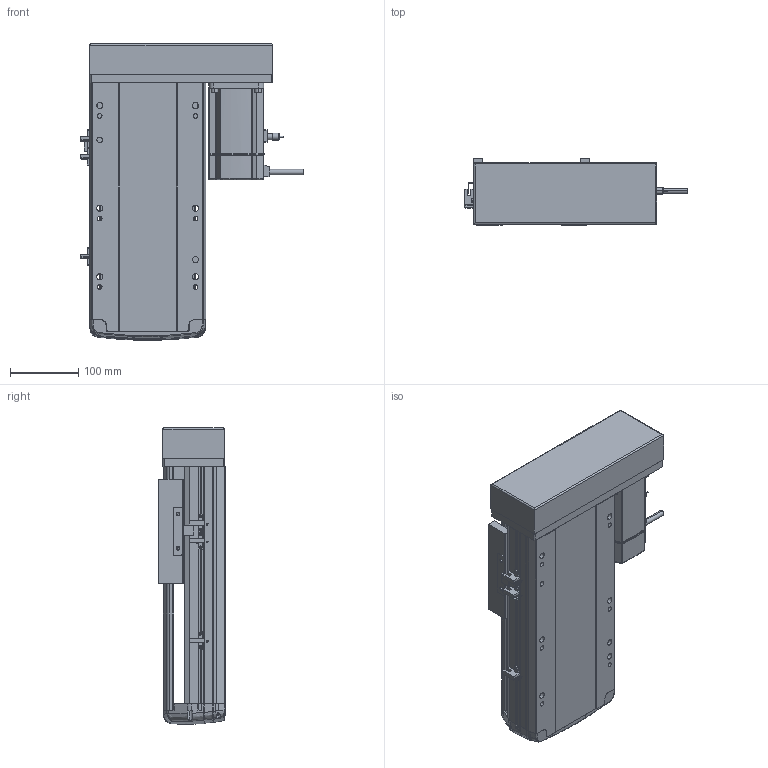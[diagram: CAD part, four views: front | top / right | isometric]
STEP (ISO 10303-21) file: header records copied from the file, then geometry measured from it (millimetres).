
FILE_DESCRIPTION (( 'STEP AP214' ), '1' );
FILE_NAME ('RTH17-XX-150-L-M75-C4.STEP', '2025-10-24T10:30:24', ( '' ), ( '' ), 'SwSTEP 2.0', 'SolidWorks 2018', '' );
FILE_SCHEMA (( 'AUTOMOTIVE_DESIGN' ));
Length unit declared in the file: millimetre
Products named in the file (10): N_OMRON EE-SX672 換覜ん^RTH17-XX-XX-L-M75-C4ㄗ源最宒ㄘ; N_M75^RTH17-XX-XX-L-M75-C4（方程式）; N_RTH17-GY-001P^RTH17-XX-XX-L-M75-C4（方程式）; N_RTH17-M-007上盖^RTH17-XX-XX-L-M75-C4（方程式）; N_RTH17-E-004丝杆螺母连接座^RTH17-XX-XX-L-M75-C4（方程式）; N_RTH17-L-008-P75电机安装板左转折^RTH17-XX-XX-L-M75-C4（方程式）; N_RTH17-L-018盖子^RTH17-XX-XX-L-M75-C4（方程式）; N_RTH-L-012 感应片(外置)^RTH17-XX-XX-L-M75-C4（方程式）; N_RTH17-M-011底座^RTH17-XX-XX-L-M75-C4（方程式）; RTH17-XX-150-L-M75-C4
Assembly tree (11 placements, depth 2):
  RTH17-XX-150-L-M75-C4
    N_RTH17-M-011底座^RTH17-XX-XX-L-M75-C4（方程式）
    N_RTH17-M-007上盖^RTH17-XX-XX-L-M75-C4（方程式）
    N_M75^RTH17-XX-XX-L-M75-C4（方程式）
    N_OMRON EE-SX672 換覜ん^RTH17-XX-XX-L-M75-C4ㄗ源最宒ㄘ  x3
    N_RTH-L-012 感应片(外置)^RTH17-XX-XX-L-M75-C4（方程式）
    N_RTH17-L-008-P75电机安装板左转折^RTH17-XX-XX-L-M75-C4（方程式）
    N_RTH17-L-018盖子^RTH17-XX-XX-L-M75-C4（方程式）
    N_RTH17-E-004丝杆螺母连接座^RTH17-XX-XX-L-M75-C4（方程式）
    N_RTH17-GY-001P^RTH17-XX-XX-L-M75-C4（方程式）
Bounding box: 326.7 x 97 x 433.07 mm (x, y, z)
Volume: 5367235 mm3; surface area: 677658.8 mm2
Topology: 13 solids, 15 shells, 1709 faces, 4673 edges, 3022 vertices
Faces by surface type: plane 827, cylinder 468, bspline 377, cone 28, torus 9
Entity records: 49097 total; most frequent: CARTESIAN_POINT 19733, ORIENTED_EDGE 6370, DIRECTION 5293, EDGE_CURVE 3189, VERTEX_POINT 2058, AXIS2_PLACEMENT_3D 1765, LINE 1763, VECTOR 1763
